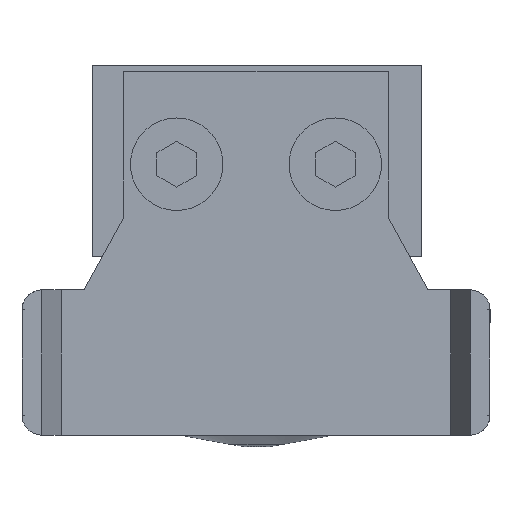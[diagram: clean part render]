
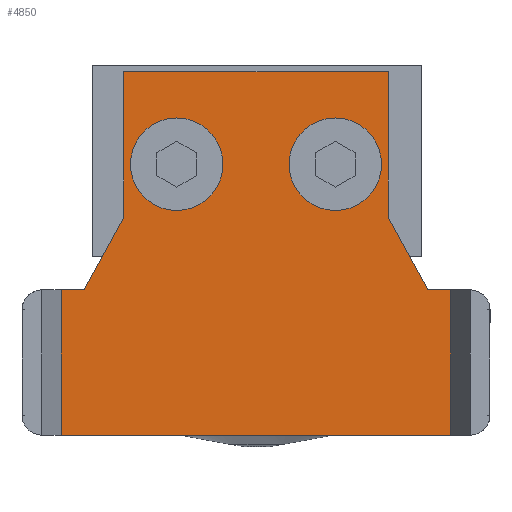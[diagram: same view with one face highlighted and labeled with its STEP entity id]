
A CAD part, left-side view. The second image highlights one B-rep face of the part: STEP entity #4850.
In plain terms, the highlighted planar face has unit normal (-1, 0, 0).
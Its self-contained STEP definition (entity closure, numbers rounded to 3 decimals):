
#5 = EDGE_LOOP ( 'NONE', ( #4246, #3589 ) ) ;
#54 = CARTESIAN_POINT ( 'NONE',  ( 4., 5.5, 10. ) ) ;
#84 = ORIENTED_EDGE ( 'NONE', *, *, #5192, .F. ) ;
#116 = CARTESIAN_POINT ( 'NONE',  ( 4., 9.5, -2.5 ) ) ;
#306 = VERTEX_POINT ( 'NONE', #116 ) ;
#336 = DIRECTION ( 'NONE',  ( 0., 1., 0. ) ) ;
#512 = AXIS2_PLACEMENT_3D ( 'NONE', #1491, #5562, #2520 ) ;
#532 = DIRECTION ( 'NONE',  ( 0., 0.878, -0.479 ) ) ;
#568 = ORIENTED_EDGE ( 'NONE', *, *, #3346, .T. ) ;
#638 = CARTESIAN_POINT ( 'NONE',  ( 4., -11., -14.744 ) ) ;
#827 = CARTESIAN_POINT ( 'NONE',  ( 4., 0., -14.744 ) ) ;
#870 = VERTEX_POINT ( 'NONE', #6293 ) ;
#911 = AXIS2_PLACEMENT_3D ( 'NONE', #2005, #3583, #1581 ) ;
#943 = VECTOR ( 'NONE', #1837, 1000. ) ;
#1007 = LINE ( 'NONE', #827, #2929 ) ;
#1109 = CARTESIAN_POINT ( 'NONE',  ( 4., 16.5, -10. ) ) ;
#1138 = EDGE_LOOP ( 'NONE', ( #6072, #5311 ) ) ;
#1209 = CARTESIAN_POINT ( 'NONE',  ( 4., 9.5, -6. ) ) ;
#1259 = AXIS2_PLACEMENT_3D ( 'NONE', #1209, #6207, #4757 ) ;
#1295 = LINE ( 'NONE', #6381, #2497 ) ;
#1374 = DIRECTION ( 'NONE',  ( 0., 1., 0. ) ) ;
#1489 = VECTOR ( 'NONE', #1374, 1000. ) ;
#1491 = CARTESIAN_POINT ( 'NONE',  ( 4., 9.5, 6. ) ) ;
#1556 = PLANE ( 'NONE',  #911 ) ;
#1581 = DIRECTION ( 'NONE',  ( 0., 0., -1. ) ) ;
#1604 = ORIENTED_EDGE ( 'NONE', *, *, #1860, .F. ) ;
#1644 = EDGE_CURVE ( 'NONE', #5851, #306, #6325, .T. ) ;
#1655 = VECTOR ( 'NONE', #3685, 1000. ) ;
#1677 = CARTESIAN_POINT ( 'NONE',  ( 4., 9.5, 2.5 ) ) ;
#1686 = EDGE_CURVE ( 'NONE', #2110, #6205, #4837, .T. ) ;
#1754 = CARTESIAN_POINT ( 'NONE',  ( 4., 9.5, 9.5 ) ) ;
#1757 = CARTESIAN_POINT ( 'NONE',  ( 4., 9.5, -6. ) ) ;
#1762 = CIRCLE ( 'NONE', #512, 3.5 ) ;
#1837 = DIRECTION ( 'NONE',  ( 0., 0., 1. ) ) ;
#1860 = EDGE_CURVE ( 'NONE', #3705, #2903, #2300, .T. ) ;
#1939 = DIRECTION ( 'NONE',  ( 0., -0.878, -0.479 ) ) ;
#2005 = CARTESIAN_POINT ( 'NONE',  ( 4., 0., 0. ) ) ;
#2041 = ORIENTED_EDGE ( 'NONE', *, *, #2449, .F. ) ;
#2110 = VERTEX_POINT ( 'NONE', #3999 ) ;
#2114 = LINE ( 'NONE', #54, #6367 ) ;
#2158 = DIRECTION ( 'NONE',  ( 0., 0., -1. ) ) ;
#2200 = EDGE_CURVE ( 'NONE', #6205, #5937, #4352, .T. ) ;
#2285 = LINE ( 'NONE', #1109, #6317 ) ;
#2300 = LINE ( 'NONE', #4372, #943 ) ;
#2349 = ORIENTED_EDGE ( 'NONE', *, *, #5496, .F. ) ;
#2419 = DIRECTION ( 'NONE',  ( 0., 0., -1. ) ) ;
#2421 = DIRECTION ( 'NONE',  ( 0., 0., 1. ) ) ;
#2429 = DIRECTION ( 'NONE',  ( 0., -1., 0. ) ) ;
#2434 = CARTESIAN_POINT ( 'NONE',  ( 4., 0., -14.744 ) ) ;
#2449 = EDGE_CURVE ( 'NONE', #4572, #4889, #1007, .T. ) ;
#2477 = ORIENTED_EDGE ( 'NONE', *, *, #2732, .T. ) ;
#2497 = VECTOR ( 'NONE', #2421, 1000. ) ;
#2520 = DIRECTION ( 'NONE',  ( 0., 0., -1. ) ) ;
#2717 = CARTESIAN_POINT ( 'NONE',  ( 4., 5.5, -10. ) ) ;
#2732 = EDGE_CURVE ( 'NONE', #4645, #2110, #2285, .T. ) ;
#2903 = VERTEX_POINT ( 'NONE', #4107 ) ;
#2929 = VECTOR ( 'NONE', #336, 1000. ) ;
#2985 = EDGE_CURVE ( 'NONE', #5925, #4645, #6383, .T. ) ;
#3229 = EDGE_LOOP ( 'NONE', ( #568, #84, #1604, #3369, #5429, #2477, #6377, #5627, #2349, #2041 ) ) ;
#3302 = VERTEX_POINT ( 'NONE', #1677 ) ;
#3346 = EDGE_CURVE ( 'NONE', #4572, #870, #5223, .T. ) ;
#3369 = ORIENTED_EDGE ( 'NONE', *, *, #3931, .T. ) ;
#3411 = VERTEX_POINT ( 'NONE', #1754 ) ;
#3583 = DIRECTION ( 'NONE',  ( 1., 0., 0. ) ) ;
#3589 = ORIENTED_EDGE ( 'NONE', *, *, #5365, .F. ) ;
#3685 = DIRECTION ( 'NONE',  ( 0., -1., 0. ) ) ;
#3705 = VERTEX_POINT ( 'NONE', #5325 ) ;
#3808 = CARTESIAN_POINT ( 'NONE',  ( 4., 5.5, -10. ) ) ;
#3900 = VECTOR ( 'NONE', #2429, 1000. ) ;
#3904 = FACE_BOUND ( 'NONE', #5, .T. ) ;
#3931 = EDGE_CURVE ( 'NONE', #3705, #5925, #2114, .T. ) ;
#3999 = CARTESIAN_POINT ( 'NONE',  ( 4., 16.5, -10. ) ) ;
#4066 = CIRCLE ( 'NONE', #5564, 3.5 ) ;
#4107 = CARTESIAN_POINT ( 'NONE',  ( 4., 0., 14.744 ) ) ;
#4246 = ORIENTED_EDGE ( 'NONE', *, *, #6489, .F. ) ;
#4301 = DIRECTION ( 'NONE',  ( 0., 0., -1. ) ) ;
#4352 = LINE ( 'NONE', #6078, #5163 ) ;
#4372 = CARTESIAN_POINT ( 'NONE',  ( 4., 0., 0. ) ) ;
#4401 = FACE_BOUND ( 'NONE', #1138, .T. ) ;
#4543 = EDGE_CURVE ( 'NONE', #306, #5851, #5443, .T. ) ;
#4572 = VERTEX_POINT ( 'NONE', #638 ) ;
#4645 = VERTEX_POINT ( 'NONE', #5027 ) ;
#4757 = DIRECTION ( 'NONE',  ( 0., 0., -1. ) ) ;
#4837 = LINE ( 'NONE', #2717, #1655 ) ;
#4850 = ADVANCED_FACE ( 'NONE', ( #5434, #4401, #3904 ), #1556, .F. ) ;
#4889 = VERTEX_POINT ( 'NONE', #2434 ) ;
#5027 = CARTESIAN_POINT ( 'NONE',  ( 4., 16.5, 10. ) ) ;
#5120 = CARTESIAN_POINT ( 'NONE',  ( 4., 5.5, 10. ) ) ;
#5163 = VECTOR ( 'NONE', #1939, 1000. ) ;
#5177 = CARTESIAN_POINT ( 'NONE',  ( 4., 9.5, 6. ) ) ;
#5192 = EDGE_CURVE ( 'NONE', #2903, #870, #5356, .T. ) ;
#5223 = LINE ( 'NONE', #5781, #6374 ) ;
#5311 = ORIENTED_EDGE ( 'NONE', *, *, #4543, .F. ) ;
#5325 = CARTESIAN_POINT ( 'NONE',  ( 4., 0., 13. ) ) ;
#5356 = LINE ( 'NONE', #5857, #3900 ) ;
#5365 = EDGE_CURVE ( 'NONE', #3411, #3302, #4066, .T. ) ;
#5429 = ORIENTED_EDGE ( 'NONE', *, *, #2985, .T. ) ;
#5434 = FACE_OUTER_BOUND ( 'NONE', #3229, .T. ) ;
#5443 = CIRCLE ( 'NONE', #1259, 3.5 ) ;
#5472 = CARTESIAN_POINT ( 'NONE',  ( 4., 16.5, 10. ) ) ;
#5496 = EDGE_CURVE ( 'NONE', #4889, #5937, #1295, .T. ) ;
#5544 = CARTESIAN_POINT ( 'NONE',  ( 4., 9.5, -9.5 ) ) ;
#5562 = DIRECTION ( 'NONE',  ( -1., 0., 0. ) ) ;
#5564 = AXIS2_PLACEMENT_3D ( 'NONE', #5177, #6421, #2419 ) ;
#5627 = ORIENTED_EDGE ( 'NONE', *, *, #2200, .T. ) ;
#5632 = CARTESIAN_POINT ( 'NONE',  ( 4., 0., -13. ) ) ;
#5725 = AXIS2_PLACEMENT_3D ( 'NONE', #1757, #6275, #4301 ) ;
#5752 = DIRECTION ( 'NONE',  ( 0., 0., 1. ) ) ;
#5781 = CARTESIAN_POINT ( 'NONE',  ( 4., -11., 20. ) ) ;
#5851 = VERTEX_POINT ( 'NONE', #5544 ) ;
#5857 = CARTESIAN_POINT ( 'NONE',  ( 4., 0., 14.744 ) ) ;
#5925 = VERTEX_POINT ( 'NONE', #5120 ) ;
#5937 = VERTEX_POINT ( 'NONE', #5632 ) ;
#6072 = ORIENTED_EDGE ( 'NONE', *, *, #1644, .F. ) ;
#6078 = CARTESIAN_POINT ( 'NONE',  ( 4., 0., -13. ) ) ;
#6205 = VERTEX_POINT ( 'NONE', #3808 ) ;
#6207 = DIRECTION ( 'NONE',  ( -1., 0., 0. ) ) ;
#6275 = DIRECTION ( 'NONE',  ( -1., 0., 0. ) ) ;
#6293 = CARTESIAN_POINT ( 'NONE',  ( 4., -11., 14.744 ) ) ;
#6317 = VECTOR ( 'NONE', #2158, 1000. ) ;
#6325 = CIRCLE ( 'NONE', #5725, 3.5 ) ;
#6367 = VECTOR ( 'NONE', #532, 1000. ) ;
#6374 = VECTOR ( 'NONE', #5752, 1000. ) ;
#6377 = ORIENTED_EDGE ( 'NONE', *, *, #1686, .T. ) ;
#6381 = CARTESIAN_POINT ( 'NONE',  ( 4., 0., 0. ) ) ;
#6383 = LINE ( 'NONE', #5472, #1489 ) ;
#6421 = DIRECTION ( 'NONE',  ( -1., 0., 0. ) ) ;
#6489 = EDGE_CURVE ( 'NONE', #3302, #3411, #1762, .T. ) ;
